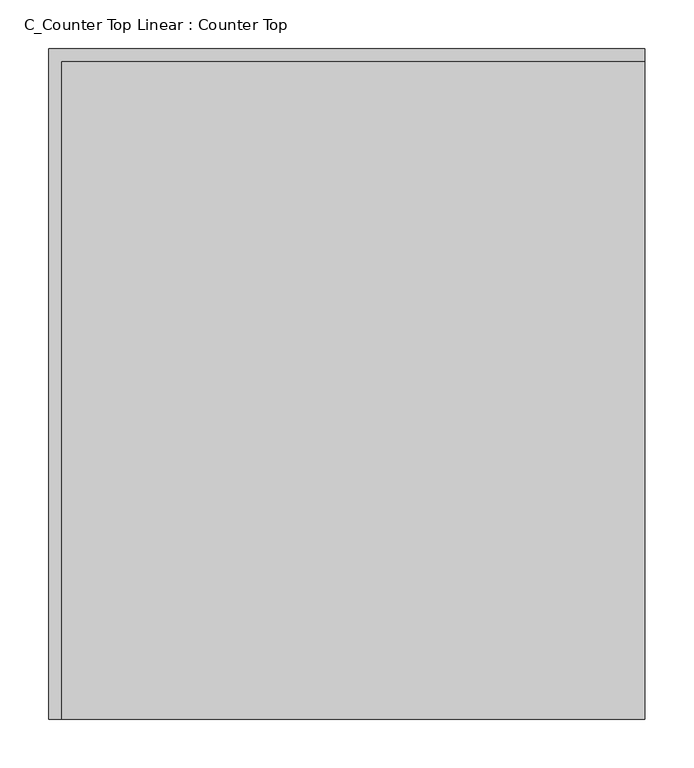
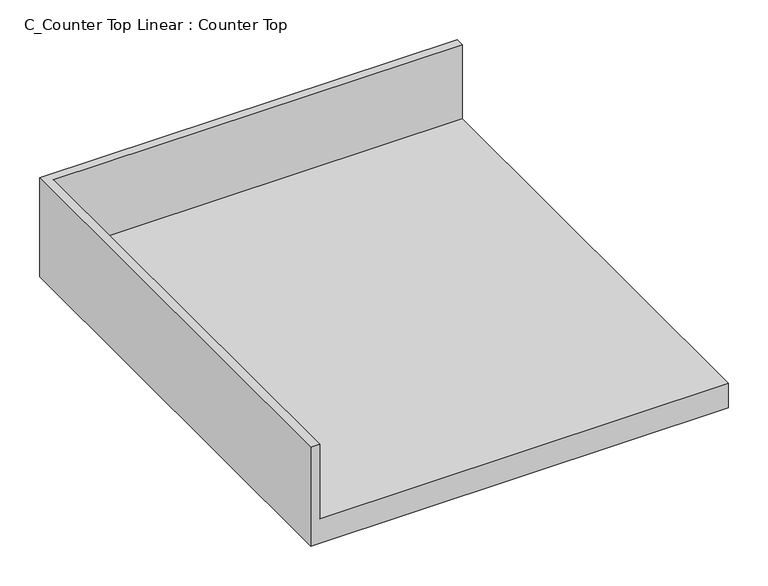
"""IFC4 building model written with IfcOpenShell, lengths in millimetres: furniture geometry, C_Counter Top Linear : Counter Top."""

from ifc_helpers import new_model, si_unit, origin, place, context, project, spatial, faceted_brep, source, transform, mapped, element, save


def c_counter_top_linear_counter_top_0d20d607(model_context):
    return source(origin(), model_context, "Body", "Brep", [
        faceted_brep([(-1187.7622951, -685.8, 38.1), (-590.8622951, -685.8, 38.1), (-590.8622951, -12.7, 38.1), (-1187.7622951, -12.7, 38.1), (-590.8622951, 0.0, 0.0), (-590.8622951, -685.8, 0.0), (-1200.4622951, -685.8, 0.0), (-1200.4622951, 0.0, 0.0), (-1200.4622951, 0.0, 152.4), (-590.8622951, 0.0, 152.4), (-1200.4622951, -685.8, 152.4), (-1187.7622951, -685.8, 152.4), (-590.8622951, -12.7, 152.4), (-1187.7622951, -12.7, 152.4)], [[[0, 1, 2, 3]], [[4, 5, 6, 7]], [[4, 7, 8, 9]], [[8, 7, 6, 10]], [[10, 6, 5, 1, 0, 11]], [[5, 4, 9, 12, 2, 1]], [[9, 8, 10, 11, 13, 12]], [[12, 13, 3, 2]], [[13, 11, 0, 3]]]),
    ])


if __name__ == "__main__":
    model = new_model("IFC4")
    model_context = context("Model", 3, world=origin())
    ifc_project = project(units=[si_unit("LENGTHUNIT", "METRE", prefix="MILLI")], contexts=[model_context])
    site = spatial("IfcSite", under=ifc_project)
    building = spatial("IfcBuilding", under=site)
    placement = place(None, origin())
    c_counter_top_linear_counter_top_shape = c_counter_top_linear_counter_top_0d20d607(model_context)
    element("IfcFurniture", 1, ObjectType="C_Counter Top Linear : Counter Top", at=placement, inside=building, context=model_context, shape_type="MappedRepresentation", body=[
        mapped(c_counter_top_linear_counter_top_shape, transform((0.0, 0.0, 0.0), x_axis=(1.0, 0.0, 0.0), y_axis=(0.0, 1.0, 0.0), z_axis=(0.0, 0.0, 1.0))),
    ])
    save(model, "model.ifc")
